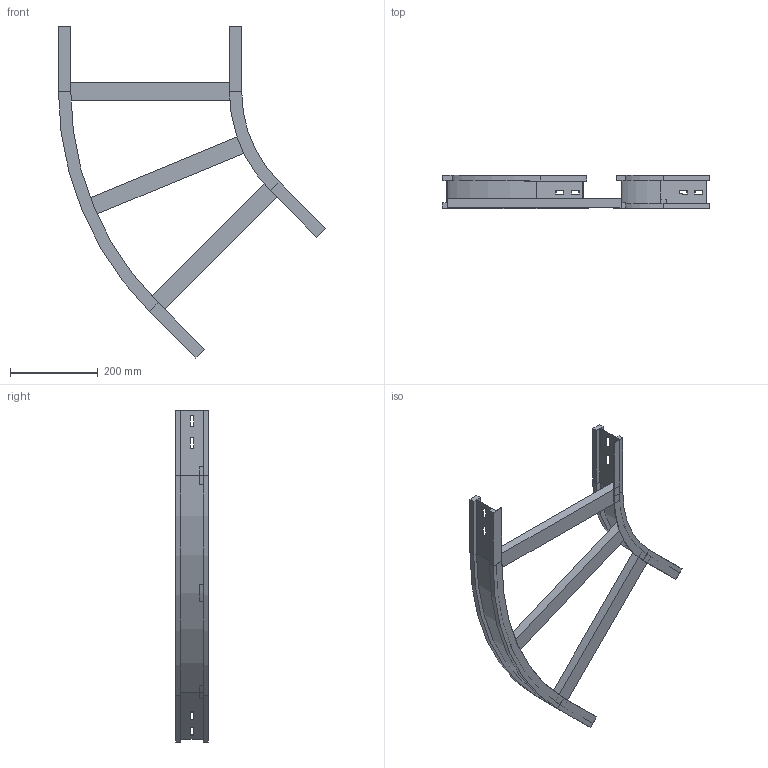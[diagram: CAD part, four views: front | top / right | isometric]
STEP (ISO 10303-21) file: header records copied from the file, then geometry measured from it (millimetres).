
FILE_DESCRIPTION (( 'STEP AP214' ), '1' );
FILE_NAME ('11S3C400.step', '2025-02-21T16:05:30', ( '' ), ( '' ), 'SwSTEP 2.0', 'SolidWorks 2023', '' );
FILE_SCHEMA (( 'AUTOMOTIVE_DESIGN' ));
Length unit declared in the file: millimetre
Products named in the file (4): LONGH.ESTERNO 45°_H75_R300+400; 11S3C400; LONGH.INTERNO 45°_H75_R300; TRAVERSINO_400
Assembly tree (5 placements, depth 2):
  11S3C400
    LONGH.INTERNO 45°_H75_R300
    LONGH.ESTERNO 45°_H75_R300+400
    TRAVERSINO_400  x3
Bounding box: 609.3 x 75 x 757.4 mm (x, y, z)
Volume: 1644664.9 mm3; surface area: 490351.3 mm2
Topology: 5 solids, 5 shells, 126 faces, 300 edges, 184 vertices
Faces by surface type: plane 114, cylinder 12
Entity records: 3389 total; most frequent: CARTESIAN_POINT 566, ORIENTED_EDGE 552, DIRECTION 544, EDGE_CURVE 276, LINE 252, VECTOR 252, VERTEX_POINT 168, AXIS2_PLACEMENT_3D 146
